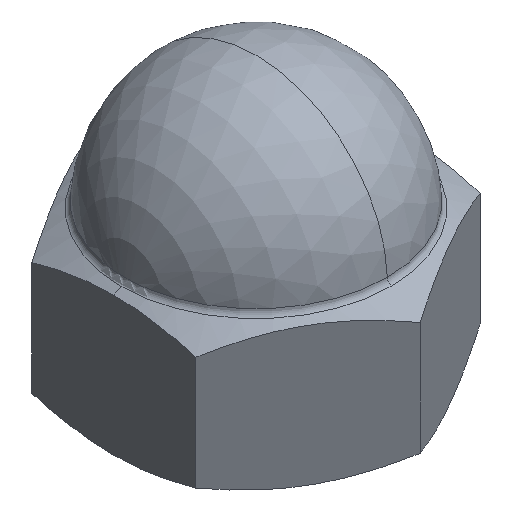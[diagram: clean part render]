
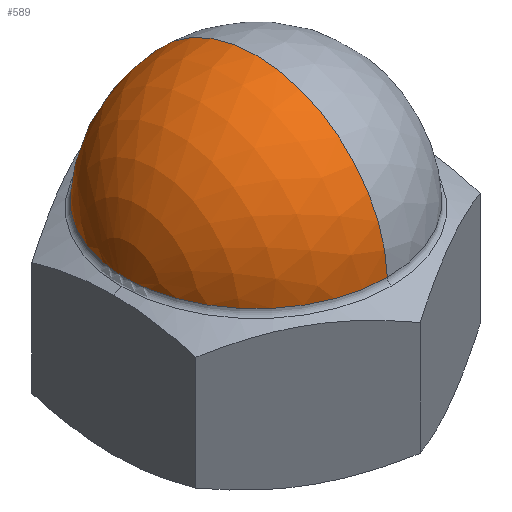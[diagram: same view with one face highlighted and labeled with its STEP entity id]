
A CAD part, isometric view. The second image highlights one B-rep face of the part: STEP entity #589.
In plain terms, the highlighted spherical face has radius 27.75 mm.
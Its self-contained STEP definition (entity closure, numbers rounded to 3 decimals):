
#4 = EDGE_CURVE ( 'NONE', #103, #185, #139, .T. ) ;
#29 = DIRECTION ( 'NONE',  ( 0., 1., 0. ) ) ;
#57 = DIRECTION ( 'NONE',  ( 0., 1., 0. ) ) ;
#103 = VERTEX_POINT ( 'NONE', #320 ) ;
#120 = CARTESIAN_POINT ( 'NONE',  ( 0., 0., 32.256 ) ) ;
#123 = ORIENTED_EDGE ( 'NONE', *, *, #328, .T. ) ;
#139 = CIRCLE ( 'NONE', #264, 27.75 ) ;
#181 = DIRECTION ( 'NONE',  ( 1., 0., 0. ) ) ;
#185 = VERTEX_POINT ( 'NONE', #682 ) ;
#196 = AXIS2_PLACEMENT_3D ( 'NONE', #726, #862, #657 ) ;
#264 = AXIS2_PLACEMENT_3D ( 'NONE', #872, #181, #426 ) ;
#294 = FACE_OUTER_BOUND ( 'NONE', #301, .T. ) ;
#301 = EDGE_LOOP ( 'NONE', ( #347, #618, #123 ) ) ;
#320 = CARTESIAN_POINT ( 'NONE',  ( 0., 0., 59. ) ) ;
#328 = EDGE_CURVE ( 'NONE', #782, #185, #771, .T. ) ;
#347 = ORIENTED_EDGE ( 'NONE', *, *, #4, .F. ) ;
#387 = AXIS2_PLACEMENT_3D ( 'NONE', #120, #798, #57 ) ;
#426 = DIRECTION ( 'NONE',  ( 0., 1., 0. ) ) ;
#478 = AXIS2_PLACEMENT_3D ( 'NONE', #706, #778, #29 ) ;
#507 = SPHERICAL_SURFACE ( 'NONE', #478, 27.75 ) ;
#589 = ADVANCED_FACE ( 'NONE', ( #294 ), #507, .T. ) ;
#618 = ORIENTED_EDGE ( 'NONE', *, *, #868, .T. ) ;
#635 = CARTESIAN_POINT ( 'NONE',  ( 0., 27.732, 32.256 ) ) ;
#657 = DIRECTION ( 'NONE',  ( 0., 0., 1. ) ) ;
#682 = CARTESIAN_POINT ( 'NONE',  ( 0., -27.732, 32.256 ) ) ;
#706 = CARTESIAN_POINT ( 'NONE',  ( 0., 0., 31.25 ) ) ;
#726 = CARTESIAN_POINT ( 'NONE',  ( 0., 0., 31.25 ) ) ;
#771 = CIRCLE ( 'NONE', #387, 27.732 ) ;
#778 = DIRECTION ( 'NONE',  ( 1., 0., 0. ) ) ;
#782 = VERTEX_POINT ( 'NONE', #635 ) ;
#798 = DIRECTION ( 'NONE',  ( 0., 0., 1. ) ) ;
#862 = DIRECTION ( 'NONE',  ( -1., 0., 0. ) ) ;
#868 = EDGE_CURVE ( 'NONE', #103, #782, #894, .T. ) ;
#872 = CARTESIAN_POINT ( 'NONE',  ( 0., 0., 31.25 ) ) ;
#894 = CIRCLE ( 'NONE', #196, 27.75 ) ;
